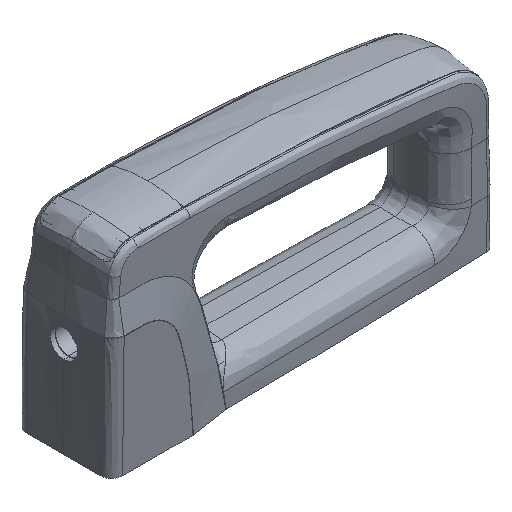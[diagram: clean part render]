
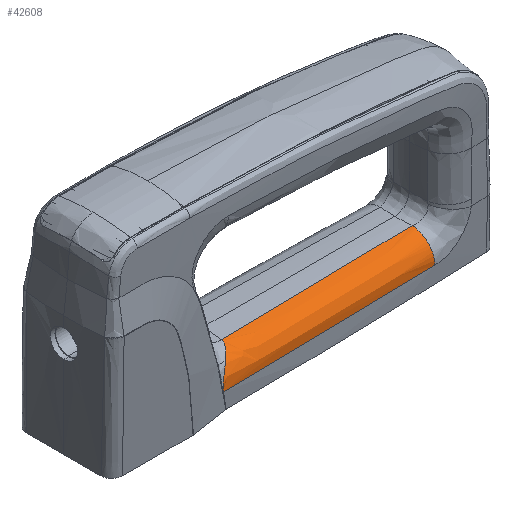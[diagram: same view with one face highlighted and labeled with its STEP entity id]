
A CAD part, isometric view. The second image highlights one B-rep face of the part: STEP entity #42608.
In plain terms, the highlighted free-form (B-spline) face has degree [3, 2] with [4, 3] control points.
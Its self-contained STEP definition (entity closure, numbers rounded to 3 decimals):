
#1393 = CARTESIAN_POINT ( 'NONE',  ( 163.548, -6.646, -27.561 ) ) ;
#1634 = CARTESIAN_POINT ( 'NONE',  ( 163.811, -14.716, -32.728 ) ) ;
#1652 = EDGE_CURVE ( 'NONE', #46191, #31657, #18369, .T. ) ;
#1748 = VERTEX_POINT ( 'NONE', #45101 ) ;
#1855 = CARTESIAN_POINT ( 'NONE',  ( 78.406, -14.062, -30.101 ) ) ;
#3738 = CARTESIAN_POINT ( 'NONE',  ( 78.406, -14.062, -30.101 ) ) ;
#4477 = CARTESIAN_POINT ( 'NONE',  ( 77.826, -14.57, -30.545 ) ) ;
#4631 = CARTESIAN_POINT ( 'NONE',  ( 82.688, -8.229, -27.633 ) ) ;
#4845 =( BOUNDED_SURFACE ( )  B_SPLINE_SURFACE ( 3, 2, ( 
 ( #48343, #32929, #40519 ),
 ( #9481, #25394, #16805 ),
 ( #21353, #40772, #36486 ),
 ( #21097, #24388, #28659 ) ),
 .UNSPECIFIED., .F., .F., .T. ) 
 B_SPLINE_SURFACE_WITH_KNOTS ( ( 4, 4 ),
 ( 3, 3 ),
 ( 0.039, 0.129 ),
 ( 0., 1. ),
 .UNSPECIFIED. ) 
 GEOMETRIC_REPRESENTATION_ITEM ( )  RATIONAL_B_SPLINE_SURFACE ( (
 ( 1., 0.734, 1.),
 ( 1., 0.735, 1.),
 ( 1., 0.735, 1.),
 ( 1., 0.735, 1.) ) ) 
 REPRESENTATION_ITEM ( '' )  SURFACE ( )  );
#6467 = CARTESIAN_POINT ( 'NONE',  ( 104.049, -17.341, -37.596 ) ) ;
#7979 = VERTEX_POINT ( 'NONE', #1393 ) ;
#8251 = EDGE_LOOP ( 'NONE', ( #19982, #30567, #13439, #35094, #15265 ) ) ;
#9271 = CARTESIAN_POINT ( 'NONE',  ( 82.688, -8.229, -27.633 ) ) ;
#9350 = B_SPLINE_CURVE_WITH_KNOTS ( 'NONE', 3,
 ( #15579, #11290, #46619, #42341, #38072, #15087, #26702, #23671, #4477, #3738 ),
 .UNSPECIFIED., .F., .F.,
 ( 4, 2, 2, 2, 4 ),
 ( 0., 0.25, 0.5, 0.75, 1. ),
 .UNSPECIFIED. ) ;
#9481 = CARTESIAN_POINT ( 'NONE',  ( 133.532, -7.618, -27.607 ) ) ;
#9832 = VERTEX_POINT ( 'NONE', #19837 ) ;
#11290 = CARTESIAN_POINT ( 'NONE',  ( 74.012, -17.47, -36.909 ) ) ;
#12993 = CARTESIAN_POINT ( 'NONE',  ( 163.587, -7.886, -27.659 ) ) ;
#13439 = ORIENTED_EDGE ( 'NONE', *, *, #26004, .T. ) ;
#13459 = CARTESIAN_POINT ( 'NONE',  ( 81.743, -10.591, -28.039 ) ) ;
#15087 = CARTESIAN_POINT ( 'NONE',  ( 75.543, -16.243, -32.76 ) ) ;
#15265 = ORIENTED_EDGE ( 'NONE', *, *, #27513, .F. ) ;
#15579 = CARTESIAN_POINT ( 'NONE',  ( 74.138, -17.47, -37.602 ) ) ;
#16106 = CARTESIAN_POINT ( 'NONE',  ( 74.138, -17.47, -37.602 ) ) ;
#16279 = CARTESIAN_POINT ( 'NONE',  ( 163.699, -11.342, -29.076 ) ) ;
#16779 = CARTESIAN_POINT ( 'NONE',  ( 163.852, -15.857, -36.287 ) ) ;
#16805 = CARTESIAN_POINT ( 'NONE',  ( 133.749, -16.81, -37.574 ) ) ;
#17211 = B_SPLINE_CURVE_WITH_KNOTS ( 'NONE', 3,
 ( #28182, #20882, #43847, #9271 ),
 .UNSPECIFIED., .F., .F.,
 ( 4, 4 ),
 ( 0., 0.081 ),
 .UNSPECIFIED. ) ;
#17242 = CARTESIAN_POINT ( 'NONE',  ( 79.241, -13.34, -29.467 ) ) ;
#18298 = CARTESIAN_POINT ( 'NONE',  ( 163.854, -15.857, -37.53 ) ) ;
#18369 = B_SPLINE_CURVE_WITH_KNOTS ( 'NONE', 3,
 ( #41054, #6467, #37283, #28940 ),
 .UNSPECIFIED., .F., .F.,
 ( 4, 4 ),
 ( 0., 0.09 ),
 .UNSPECIFIED. ) ;
#19837 = CARTESIAN_POINT ( 'NONE',  ( 82.688, -8.229, -27.633 ) ) ;
#19982 = ORIENTED_EDGE ( 'NONE', *, *, #1652, .T. ) ;
#20882 = CARTESIAN_POINT ( 'NONE',  ( 136.603, -7.519, -27.602 ) ) ;
#21097 = CARTESIAN_POINT ( 'NONE',  ( 73.47, -8.28, -27.635 ) ) ;
#21353 = CARTESIAN_POINT ( 'NONE',  ( 103.503, -8.154, -27.629 ) ) ;
#22412 = B_SPLINE_CURVE_WITH_KNOTS ( 'NONE', 3,
 ( #24617, #16779, #24362, #1634, #39742, #35692, #16279, #31667, #12993, #27889 ),
 .UNSPECIFIED., .F., .F.,
 ( 4, 2, 2, 2, 4 ),
 ( 0., 0.25, 0.5, 0.75, 1. ),
 .UNSPECIFIED. ) ;
#23268 = EDGE_CURVE ( 'NONE', #1748, #9832, #42535, .T. ) ;
#23671 = CARTESIAN_POINT ( 'NONE',  ( 77.208, -15.033, -31.041 ) ) ;
#24362 = CARTESIAN_POINT ( 'NONE',  ( 163.843, -15.622, -35.044 ) ) ;
#24388 = CARTESIAN_POINT ( 'NONE',  ( 73.508, -17.472, -28.38 ) ) ;
#24617 = CARTESIAN_POINT ( 'NONE',  ( 163.854, -15.857, -37.53 ) ) ;
#25394 = CARTESIAN_POINT ( 'NONE',  ( 133.768, -16.809, -28.35 ) ) ;
#25775 = CARTESIAN_POINT ( 'NONE',  ( 82.495, -9.439, -27.731 ) ) ;
#26004 = EDGE_CURVE ( 'NONE', #7979, #9832, #17211, .T. ) ;
#26702 = CARTESIAN_POINT ( 'NONE',  ( 76.066, -15.868, -32.143 ) ) ;
#27513 = EDGE_CURVE ( 'NONE', #46191, #1748, #9350, .T. ) ;
#27889 = CARTESIAN_POINT ( 'NONE',  ( 163.548, -6.646, -27.561 ) ) ;
#28182 = CARTESIAN_POINT ( 'NONE',  ( 163.548, -6.646, -27.561 ) ) ;
#28659 = CARTESIAN_POINT ( 'NONE',  ( 73.51, -17.472, -37.602 ) ) ;
#28940 = CARTESIAN_POINT ( 'NONE',  ( 163.854, -15.857, -37.53 ) ) ;
#30567 = ORIENTED_EDGE ( 'NONE', *, *, #30750, .T. ) ;
#30750 = EDGE_CURVE ( 'NONE', #31657, #7979, #22412, .T. ) ;
#31657 = VERTEX_POINT ( 'NONE', #18298 ) ;
#31667 = CARTESIAN_POINT ( 'NONE',  ( 163.626, -9.106, -27.99 ) ) ;
#32190 = FACE_OUTER_BOUND ( 'NONE', #8251, .T. ) ;
#32929 = CARTESIAN_POINT ( 'NONE',  ( 163.84, -15.857, -28.287 ) ) ;
#35094 = ORIENTED_EDGE ( 'NONE', *, *, #23268, .F. ) ;
#35692 = CARTESIAN_POINT ( 'NONE',  ( 163.732, -12.358, -29.829 ) ) ;
#36486 = CARTESIAN_POINT ( 'NONE',  ( 103.63, -17.348, -37.596 ) ) ;
#37283 = CARTESIAN_POINT ( 'NONE',  ( 133.958, -16.803, -37.574 ) ) ;
#38072 = CARTESIAN_POINT ( 'NONE',  ( 74.713, -16.849, -34.067 ) ) ;
#39742 = CARTESIAN_POINT ( 'NONE',  ( 163.788, -14.045, -31.656 ) ) ;
#40519 = CARTESIAN_POINT ( 'NONE',  ( 163.854, -15.857, -37.53 ) ) ;
#40772 = CARTESIAN_POINT ( 'NONE',  ( 103.628, -17.348, -28.371 ) ) ;
#41054 = CARTESIAN_POINT ( 'NONE',  ( 74.138, -17.47, -37.602 ) ) ;
#42341 = CARTESIAN_POINT ( 'NONE',  ( 74.407, -17.083, -34.758 ) ) ;
#42535 = B_SPLINE_CURVE_WITH_KNOTS ( 'NONE', 3,
 ( #1855, #17242, #48045, #13459, #25775, #4631 ),
 .UNSPECIFIED., .F., .F.,
 ( 4, 2, 4 ),
 ( 0., 0.442, 1. ),
 .UNSPECIFIED. ) ;
#42608 = ADVANCED_FACE ( 'NONE', ( #32190 ), #4845, .T. ) ;
#43847 = CARTESIAN_POINT ( 'NONE',  ( 109.647, -8.04, -27.624 ) ) ;
#45101 = CARTESIAN_POINT ( 'NONE',  ( 78.406, -14.062, -30.101 ) ) ;
#46191 = VERTEX_POINT ( 'NONE', #16106 ) ;
#46619 = CARTESIAN_POINT ( 'NONE',  ( 74.064, -17.395, -36.179 ) ) ;
#48045 = CARTESIAN_POINT ( 'NONE',  ( 80.083, -12.54, -28.948 ) ) ;
#48343 = CARTESIAN_POINT ( 'NONE',  ( 163.548, -6.646, -27.561 ) ) ;
